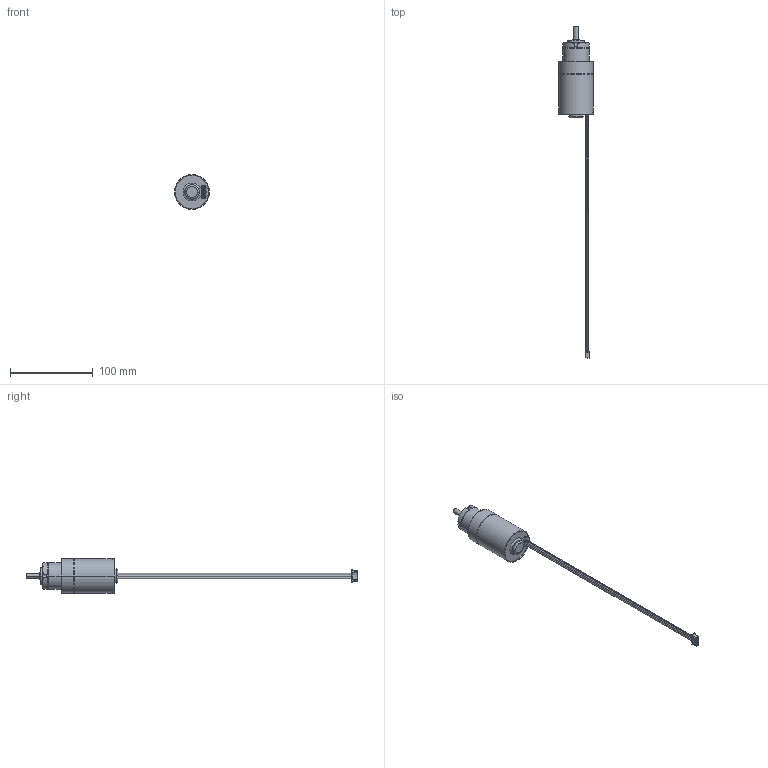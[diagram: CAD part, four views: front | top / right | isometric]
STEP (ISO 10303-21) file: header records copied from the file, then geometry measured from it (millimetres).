
FILE_DESCRIPTION((''),'2;1');
FILE_NAME('B_L_ASM','2024-01-16T15:15:31',('Danny.Guo'),(''),'CREO PARAMETRIC BY PTC INC, 2020414','CREO PARAMETRIC BY PTC INC, 2020414','');
FILE_SCHEMA(('CONFIG_CONTROL_DESIGN'));
Length unit declared in the file: millimetre
Products named in the file (3): B_L; XHP-5_1; B_L_ASM
Assembly tree (2 placements, depth 2):
  B_L_ASM
    B_L
    XHP-5_1
Bounding box: 42 x 401.13 x 42 mm (x, y, z)
Volume: 111739.6 mm3; surface area: 26896.5 mm2
Topology: 2 solids, 6 shells, 286 faces, 704 edges, 458 vertices
Faces by surface type: plane 165, cylinder 88, cone 30, torus 3
Entity records: 8548 total; most frequent: CARTESIAN_POINT 1530, DIRECTION 1496, ORIENTED_EDGE 1376, EDGE_CURVE 696, AXIS2_PLACEMENT_3D 521, VERTEX_POINT 458, VECTOR 454, LINE 454
